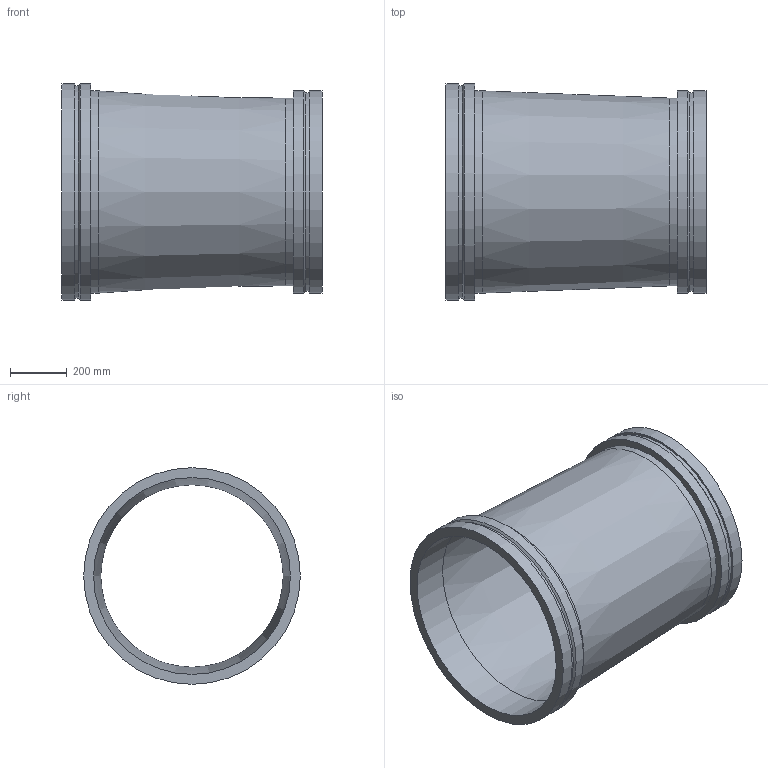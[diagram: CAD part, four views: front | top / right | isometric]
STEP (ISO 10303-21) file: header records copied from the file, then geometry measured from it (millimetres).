
FILE_DESCRIPTION(/* description */ ('VIC REDUCER CONCENTRIC No W50 VR','CAx-IF Rec.Pracs.---Representation and Presentation of Product Manufacturing Information (PMI)---4.0---2014-10-13'),/* implementation_level */ '2;1');
FILE_NAME(/* name */ 'C:\Users\kkamble\AppData\Roaming\Autodesk\ApplicationPlugins\Back Up\Victaulic_Vic-Ring_Reducer Concentric_No W50 VR (AGR)\Victaulic_Vic-Ring_Reducer Concentric_No W50 VR (AGR)_28.0x26.0 (700x650).stp',/* time_stamp */ '2020-09-10T11:46:19+05:00',/* author */ ('cps_temp'),/* organization */ ('Victaulic'),/* preprocessor_version */ 'ST-DEVELOPER v17.2',/* originating_system */ 'Autodesk Inventor 2019',/* authorisation */ '');
FILE_SCHEMA (('AP242_MANAGED_MODEL_BASED_3D_ENGINEERING_MIM_LF { 1 0 10303 442 1 1 4 }'));
Length unit declared in the file: inch
Products named in the file (1): W50 VR-28.0x26.0
Bounding box: 914.4 x 762 x 762 mm (x, y, z)
Volume: 29484333.7 mm3; surface area: 4234546.4 mm2
Topology: 1 solids, 1 shells, 20 faces, 54 edges, 40 vertices
Faces by surface type: cylinder 10, plane 6, cone 4
Full cylindrical faces by diameter (mm): 641.35 x1, 660.4 x1, 692.15 x1, 696.722 x1, 711.2 x3, 747.522 x1, 762 x2
Entity records: 830 total; most frequent: DIRECTION 162, CARTESIAN_POINT 132, ORIENTED_EDGE 108, AXIS2_PLACEMENT_3D 74, EDGE_CURVE 54, CIRCLE 40, VERTEX_POINT 40, EDGE_LOOP 26
